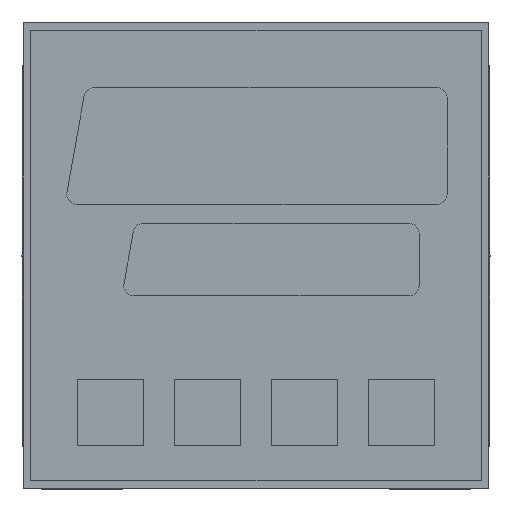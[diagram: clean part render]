
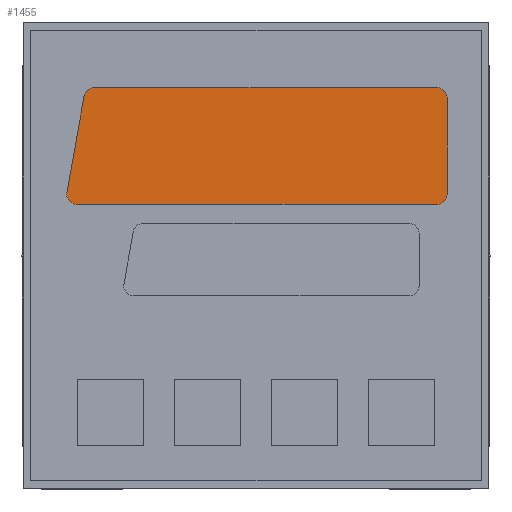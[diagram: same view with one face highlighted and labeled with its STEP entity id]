
A CAD part, top view. The second image highlights one B-rep face of the part: STEP entity #1455.
In plain terms, the highlighted planar face has unit normal (0, 0, 1).
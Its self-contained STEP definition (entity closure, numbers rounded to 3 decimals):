
#1455 = ADVANCED_FACE( 'NONE', ( #2939 ), #2940, .F. );
#2939 = FACE_OUTER_BOUND( '', #4494, .T. );
#2940 = PLANE( '', #4495 );
#4494 = EDGE_LOOP( '', ( #9227, #9228, #9229, #9230, #9231, #9232, #9233, #9234 ) );
#4495 = AXIS2_PLACEMENT_3D( '', #9235, #9236, #9237 );
#9227 = ORIENTED_EDGE( '', *, *, #10690, .T. );
#9228 = ORIENTED_EDGE( '', *, *, #10644, .T. );
#9229 = ORIENTED_EDGE( '', *, *, #11638, .T. );
#9230 = ORIENTED_EDGE( '', *, *, #10484, .T. );
#9231 = ORIENTED_EDGE( '', *, *, #11735, .T. );
#9232 = ORIENTED_EDGE( '', *, *, #11265, .T. );
#9233 = ORIENTED_EDGE( '', *, *, #11701, .T. );
#9234 = ORIENTED_EDGE( '', *, *, #10703, .T. );
#9235 = CARTESIAN_POINT( '', ( 18.7, 6.3, 0.2 ) );
#9236 = DIRECTION( '', ( 0., 0., -1. ) );
#9237 = DIRECTION( '', ( 0., -1., 0. ) );
#10484 = EDGE_CURVE( 'NONE', #12689, #12687, #12690, .T. );
#10644 = EDGE_CURVE( 'NONE', #12949, #12947, #12950, .T. );
#10690 = EDGE_CURVE( 'NONE', #13018, #12949, #13019, .T. );
#10703 = EDGE_CURVE( 'NONE', #13038, #13018, #13039, .T. );
#11265 = EDGE_CURVE( 'NONE', #13876, #13874, #13877, .T. );
#11638 = EDGE_CURVE( 'NONE', #12947, #12689, #14354, .T. );
#11701 = EDGE_CURVE( 'NONE', #13874, #13038, #14423, .T. );
#11735 = EDGE_CURVE( 'NONE', #12687, #13876, #14458, .T. );
#12687 = VERTEX_POINT( 'NONE', #16096 );
#12689 = VERTEX_POINT( 'NONE', #16099 );
#12690 = CIRCLE( '', #16100, 1. );
#12947 = VERTEX_POINT( 'NONE', #16745 );
#12949 = VERTEX_POINT( 'NONE', #16748 );
#12950 = CIRCLE( '', #16749, 1. );
#13018 = VERTEX_POINT( 'NONE', #16893 );
#13019 = LINE( '', #16894, #16895 );
#13038 = VERTEX_POINT( 'NONE', #16923 );
#13039 = CIRCLE( '', #16924, 1. );
#13874 = VERTEX_POINT( 'NONE', #18457 );
#13876 = VERTEX_POINT( 'NONE', #18460 );
#13877 = CIRCLE( '', #18461, 1. );
#14354 = LINE( '', #19428, #19429 );
#14423 = LINE( '', #19530, #19531 );
#14458 = LINE( '', #19581, #19582 );
#16096 = CARTESIAN_POINT( '', ( -17.719, 16.475, 0.2 ) );
#16099 = CARTESIAN_POINT( '', ( -16.735, 17.3, 0.2 ) );
#16100 = AXIS2_PLACEMENT_3D( '', #20151, #20152, #20153 );
#16745 = CARTESIAN_POINT( '', ( 18.7, 17.3, 0.2 ) );
#16748 = CARTESIAN_POINT( '', ( 19.7, 16.3, 0.2 ) );
#16749 = AXIS2_PLACEMENT_3D( '', #20262, #20263, #20264 );
#16893 = CARTESIAN_POINT( '', ( 19.7, 6.3, 0.2 ) );
#16894 = CARTESIAN_POINT( '', ( 19.7, 16.3, 0.2 ) );
#16895 = VECTOR( '', #20298, 1000. );
#16923 = CARTESIAN_POINT( '', ( 18.7, 5.3, 0.2 ) );
#16924 = AXIS2_PLACEMENT_3D( '', #20308, #20309, #20310 );
#18457 = CARTESIAN_POINT( '', ( -18.507, 5.3, 0.2 ) );
#18460 = CARTESIAN_POINT( '', ( -19.492, 6.475, 0.2 ) );
#18461 = AXIS2_PLACEMENT_3D( '', #20749, #20750, #20751 );
#19428 = CARTESIAN_POINT( '', ( -16.735, 17.3, 0.2 ) );
#19429 = VECTOR( '', #20998, 1000. );
#19530 = CARTESIAN_POINT( '', ( 18.7, 5.3, 0.2 ) );
#19531 = VECTOR( '', #21031, 1000. );
#19581 = CARTESIAN_POINT( '', ( -19.492, 6.475, 0.2 ) );
#19582 = VECTOR( '', #21047, 1000. );
#20151 = CARTESIAN_POINT( '', ( -16.735, 16.3, 0.2 ) );
#20152 = DIRECTION( '', ( 0., 0., 1. ) );
#20153 = DIRECTION( '', ( 1., 0., 0. ) );
#20262 = CARTESIAN_POINT( '', ( 18.7, 16.3, 0.2 ) );
#20263 = DIRECTION( '', ( 0., 0., 1. ) );
#20264 = DIRECTION( '', ( 1., 0., 0. ) );
#20298 = DIRECTION( '', ( 0., 1., 0. ) );
#20308 = CARTESIAN_POINT( '', ( 18.7, 6.3, 0.2 ) );
#20309 = DIRECTION( '', ( 0., 0., 1. ) );
#20310 = DIRECTION( '', ( 1., 0., 0. ) );
#20749 = CARTESIAN_POINT( '', ( -18.507, 6.3, 0.2 ) );
#20750 = DIRECTION( '', ( 0., 0., 1. ) );
#20751 = DIRECTION( '', ( 1., 0., 0. ) );
#20998 = DIRECTION( '', ( -1., 0., 0. ) );
#21031 = DIRECTION( '', ( 1., 0., 0. ) );
#21047 = DIRECTION( '', ( -0.175, -0.985, 0. ) );
